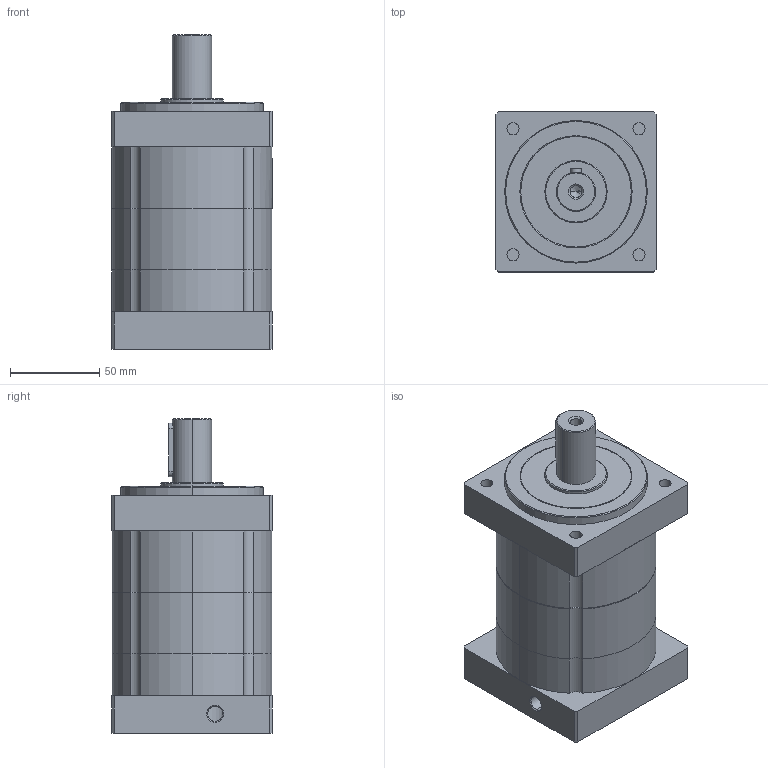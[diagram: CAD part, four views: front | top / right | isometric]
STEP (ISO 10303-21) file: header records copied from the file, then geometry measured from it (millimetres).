
FILE_DESCRIPTION (( 'STEP AP214' ), '1' );
FILE_NAME ('LX-090-025-Rev0.STEP', '2014-07-11T20:56:19', ( '' ), ( '' ), 'SwSTEP 2.0', 'SolidWorks 2014', '' );
FILE_SCHEMA (( 'AUTOMOTIVE_DESIGN' ));
Length unit declared in the file: millimetre
Products named in the file (1): LX-090-025-Rev0
Bounding box: 90 x 90 x 176.5 mm (x, y, z)
Volume: 454546.9 mm3; surface area: 131084.6 mm2
Topology: 11 solids, 11 shells, 177 faces, 419 edges, 266 vertices
Faces by surface type: cylinder 88, plane 50, cone 39
Entity records: 6806 total; most frequent: CARTESIAN_POINT 1051, DIRECTION 961, ORIENTED_EDGE 834, EDGE_CURVE 417, AXIS2_PLACEMENT_3D 388, VERTEX_POINT 266, EDGE_LOOP 217, CIRCLE 210
